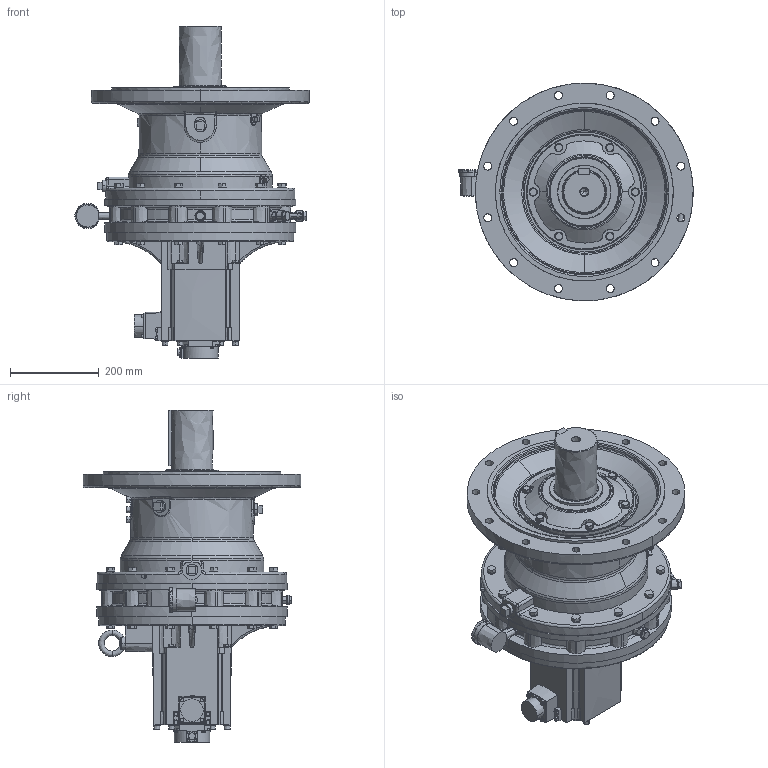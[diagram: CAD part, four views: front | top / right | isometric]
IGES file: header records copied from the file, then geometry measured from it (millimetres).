
Start section:  PTC IGES file: hg-sr702g1_6195_4359_igs.igs
Global section: file name: hg-sr702g1_6195_4359_igs.igs; native system: Creo Parametric by PTC Inc.; preprocessor: 2016380; author: ZS28065; organization: Unknown; date: 20181227.113723; units: millimetre
Bounding box: 527.41 x 490 x 747 mm (x, y, z)
Volume: 42079264.3 mm3; surface area: 1291282.1 mm2
Topology: 1 solids, 1 shells, 1649 faces, 4084 edges, 2549 vertices
Faces by surface type: bspline 1649
